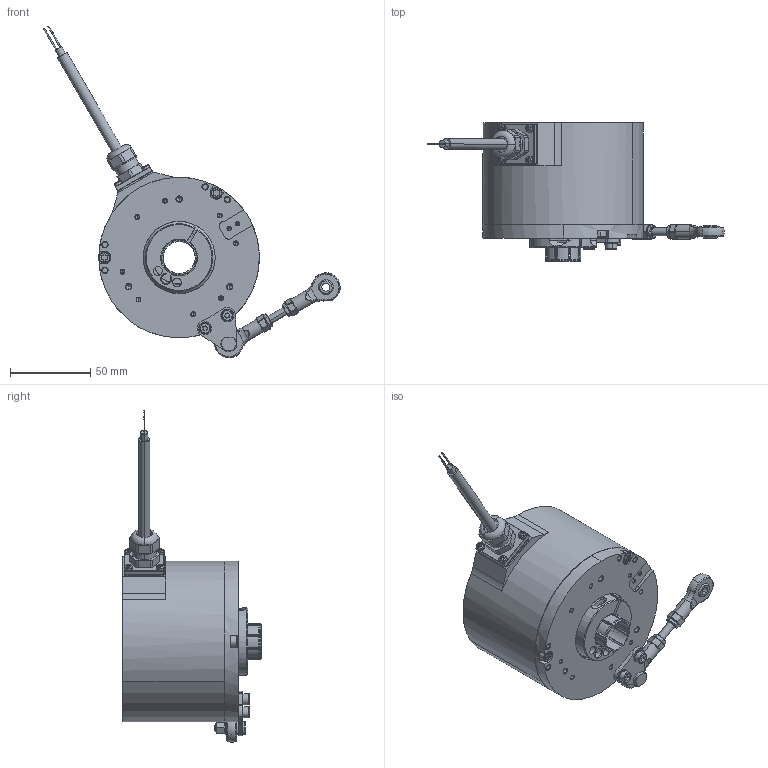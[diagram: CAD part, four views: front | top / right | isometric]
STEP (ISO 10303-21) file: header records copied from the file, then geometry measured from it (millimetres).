
FILE_DESCRIPTION (( 'STEP AP203' ), '1' );
FILE_NAME ('8.H120.23X1.XXXX.STEP', '2012-11-22T14:15:35', ( 'Hodot' ), ( '' ), 'SwSTEP 2.0', 'SolidWorks 2012', '' );
FILE_SCHEMA (( 'CONFIG_CONTROL_DESIGN' ));
Length unit declared in the file: millimetre
Products named in the file (1): 8.H120.23X1.XXXX
Bounding box: 184.85 x 86.5 x 206.89 mm (x, y, z)
Volume: 283133 mm3; surface area: 132554.2 mm2
Topology: 32 solids, 32 shells, 1366 faces, 3287 edges, 1990 vertices
Faces by surface type: cylinder 498, plane 405, cone 297, torus 92, bspline 52, sphere 22
Entity records: 40987 total; most frequent: CARTESIAN_POINT 8899, DIRECTION 7145, ORIENTED_EDGE 6398, EDGE_CURVE 3199, AXIS2_PLACEMENT_3D 2865, VERTEX_POINT 1986, CIRCLE 1550, EDGE_LOOP 1539
